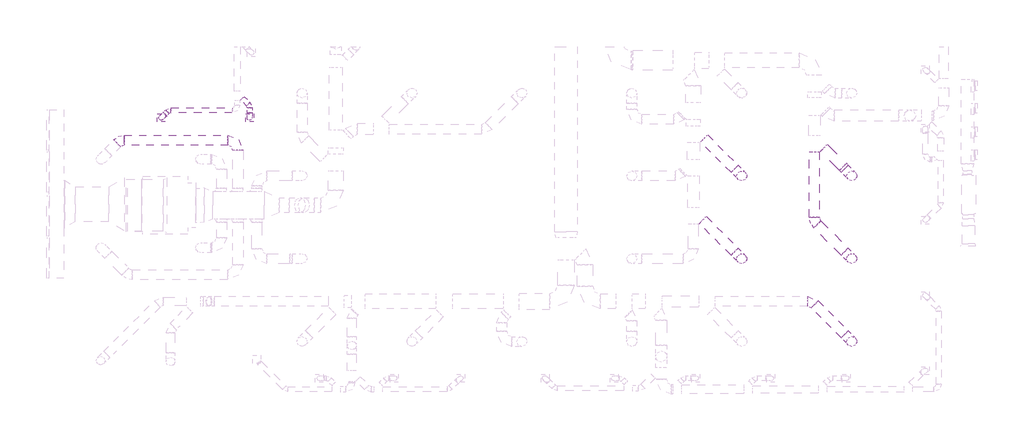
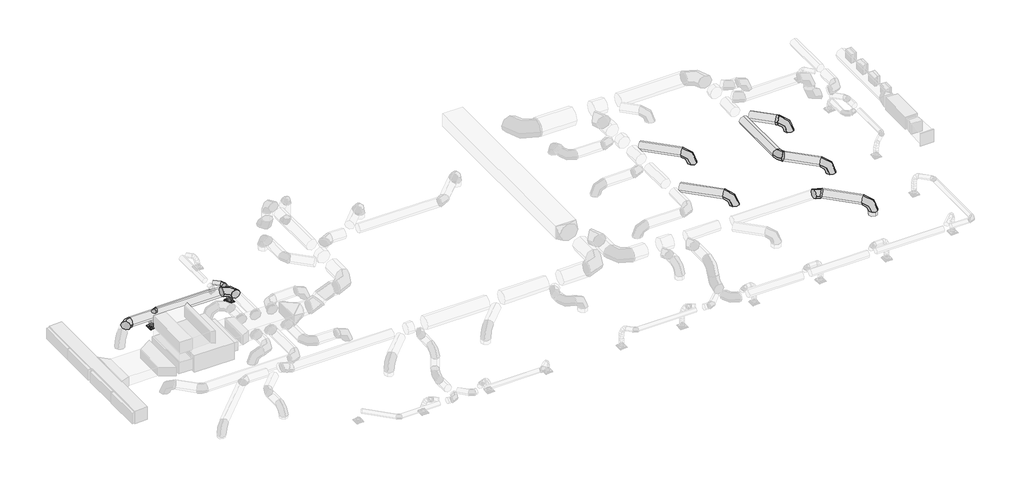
# One storey, part 7 of 33: 18 duct segments, 12 duct fittings, 2 air terminals.
"""IFC4 building model written with IfcOpenShell, lengths in millimetres."""

from ifc_helpers import new_model, si_unit, point, frame, frame_2d, origin, place, context, project, spatial, circle_curve, ellipse_curve, trimmed, segment, composite_curve, outline, extrude, transform, mapped, element, save
from ifc_brep_helpers import plane_surface, cylinder_surface, advanced_brep
from components import air_terminal_0721d01d, round_elbow_1_d_30de4f45, round_elbow_1_d_8aca8b6e, round_elbow_1_d_a6b9d10c, round_elbow_1_d_882dd61f, round_elbow_1_d_ab3aa7ba, round_transition_angle_45_degree_a114afed

model = new_model("IFC4")

# Units and contexts
model_context = context("Model", 3, world=origin())
ifc_project = project(units=[si_unit("LENGTHUNIT", "METRE", prefix="MILLI")], contexts=[model_context])

# Site, building, storey
site = spatial("IfcSite", under=ifc_project)
building = spatial("IfcBuilding", under=site)
storey = spatial("IfcBuildingStorey", under=building, Name="T.O. SLAB - 1ST", Elevation=-25.4)

# Air terminals
placement = place(None, origin())
air_terminal_shape = air_terminal_0721d01d(model_context)
element("IfcAirTerminal", 1, ObjectType="Titus-Round_Neck_Supply_Diffuser-PCS_Surface_Mount : PCS AA-08_12x12", at=placement, inside=storey, context=model_context, shape_type="MappedRepresentation", body=[
    mapped(air_terminal_shape, transform((2023.6862571, 17062.1495055, 3022.6), x_axis=(1.0, 0.0, 0.0), y_axis=(0.0, -1.0, 0.0), z_axis=(0.0, 0.0, -1.0))),
])
element("IfcAirTerminal", 2, ObjectType="Titus-Round_Neck_Supply_Diffuser-PCS_Surface_Mount : PCS AA-08_12x12", at=placement, inside=storey, context=model_context, shape_type="MappedRepresentation", body=[
    mapped(air_terminal_shape, transform((5597.6001852, 17062.1495055, 3022.6), x_axis=(1.0, 0.0, 0.0), y_axis=(0.0, -1.0, 0.0), z_axis=(0.0, 0.0, -1.0))),
])

# Duct fittings
round_elbow_1_d_shape = round_elbow_1_d_30de4f45(model_context)
element("IfcDuctFitting", 3, ObjectType="Round Elbow : 1 D", at=placement, inside=storey, context=model_context, shape_type="MappedRepresentation", body=[
    mapped(round_elbow_1_d_shape, transform((28350.6846644, 9625.3291958, 4826.0), x_axis=(-0.7071067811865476, 0.7071067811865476, 0.0), y_axis=(-0.7071067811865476, -0.7071067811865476, 0.0), z_axis=(0.0, 0.0, 1.0))),
])
round_elbow_1_d_2_shape = round_elbow_1_d_8aca8b6e(model_context)
element("IfcDuctFitting", 4, ObjectType="Round Elbow : 1 D", at=placement, inside=storey, context=model_context, shape_type="MappedRepresentation", body=[
    mapped(round_elbow_1_d_2_shape, transform((29971.9404612, 8004.073399, 4826.0), x_axis=(0.0, 0.0, 1.0), y_axis=(-0.707106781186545, 0.70710678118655, 0.0), z_axis=(-0.70710678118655, -0.707106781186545, 0.0))),
])
element("IfcDuctFitting", 5, ObjectType="Round Elbow : 1 D", at=placement, inside=storey, context=model_context, shape_type="MappedRepresentation", body=[
    mapped(round_elbow_1_d_2_shape, transform((25517.7196878, 11352.7312407, 4635.5), x_axis=(0.0, 0.0, 1.0), y_axis=(-0.7072249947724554, 0.7069885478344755, 0.0), z_axis=(-0.7069885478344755, -0.7072249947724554, 0.0))),
])
element("IfcDuctFitting", 6, ObjectType="Round Elbow : 1 D", at=placement, inside=storey, context=model_context, shape_type="MappedRepresentation", body=[
    mapped(round_elbow_1_d_2_shape, transform((25517.8815931, 14705.9176207, 4635.5), x_axis=(0.0, 0.0, 1.0), y_axis=(-0.7076122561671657, 0.7066009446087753, 0.0), z_axis=(-0.7066009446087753, -0.7076122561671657, 0.0))),
])
element("IfcDuctFitting", 7, ObjectType="Round Elbow : 1 D", at=placement, inside=storey, context=model_context, shape_type="MappedRepresentation", body=[
    mapped(round_elbow_1_d_2_shape, transform((29972.1199089, 11357.053071, 4635.5), x_axis=(0.0, 0.0, 1.0), y_axis=(-0.7075484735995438, 0.7066648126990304, 0.0), z_axis=(-0.7066648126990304, -0.7075484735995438, 0.0))),
])
element("IfcDuctFitting", 8, ObjectType="Round Elbow : 1 D", at=placement, inside=storey, context=model_context, shape_type="MappedRepresentation", body=[
    mapped(round_elbow_1_d_2_shape, transform((29971.9404612, 14709.9021835, 4635.5), x_axis=(0.0, 0.0, 1.0), y_axis=(-0.7071067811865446, 0.7071067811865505, 0.0), z_axis=(-0.7071067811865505, -0.7071067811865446, 0.0))),
])
element("IfcDuctFitting", 9, ObjectType="Round Elbow : 1 D", at=placement, inside=storey, context=model_context, shape_type="MappedRepresentation", body=[
    mapped(round_elbow_1_d_2_shape, transform((5126.1463704, 16149.3422013, 4324.35), x_axis=(0.0, 1.0, 0.0), y_axis=(-1.0, 0.0, 0.0), z_axis=(0.0, 0.0, 1.0))),
])
round_elbow_1_d_3_shape = round_elbow_1_d_a6b9d10c(model_context)
element("IfcDuctFitting", 10, ObjectType="Round Elbow : 1 D", at=placement, inside=storey, context=model_context, shape_type="MappedRepresentation", body=[
    mapped(round_elbow_1_d_3_shape, transform((28460.757068, 12866.5283632, 4635.5), x_axis=(0.0, -1.0, 0.0), y_axis=(1.0, 0.0, 0.0), z_axis=(0.0, 0.0, 1.0))),
])
round_elbow_1_d_4_shape = round_elbow_1_d_882dd61f(model_context)
element("IfcDuctFitting", 11, ObjectType="Round Elbow : 1 D", at=placement, inside=storey, context=model_context, shape_type="MappedRepresentation", body=[
    mapped(round_elbow_1_d_4_shape, transform((353.612894, 16149.3422013, 4324.35), x_axis=(-1.0, 0.0, 0.0), y_axis=(0.0, -1.0, 0.0), z_axis=(0.0, 0.0, 1.0))),
])
round_elbow_1_d_5_shape = round_elbow_1_d_ab3aa7ba(model_context)
element("IfcDuctFitting", 12, ObjectType="Round Elbow : 1 D", at=placement, inside=storey, context=model_context, shape_type="MappedRepresentation", body=[
    mapped(round_elbow_1_d_5_shape, transform((5597.6001852, 17560.7199316, 3530.6), x_axis=(0.0, 1.0, 0.0), y_axis=(-1.0, 0.0, 0.0), z_axis=(0.0, 0.0, 1.0))),
])
element("IfcDuctFitting", 13, ObjectType="Round Elbow : 1 D", at=placement, inside=storey, context=model_context, shape_type="MappedRepresentation", body=[
    mapped(round_elbow_1_d_5_shape, transform((2327.7334151, 17366.1965841, 3530.6), x_axis=(-1.0, 0.0, 0.0), y_axis=(0.0, -1.0, 0.0), z_axis=(0.0, 0.0, 1.0))),
])
round_transition_angle_45_degree_shape = round_transition_angle_45_degree_a114afed(model_context)
element("IfcDuctFitting", 14, ObjectType="Round Transition - Angle : 45 Degree", at=placement, inside=storey, context=model_context, shape_type="MappedRepresentation", body=[
    mapped(round_transition_angle_45_degree_shape, transform((29684.5722653, 14997.2703794, 4635.5), x_axis=(-0.7071067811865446, 0.7071067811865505, 0.0), y_axis=(-0.7071067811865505, -0.7071067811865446, 0.0), z_axis=(0.0, 0.0, 1.0))),
])

# Duct segments
element("IfcDuctSegment", 15, ObjectType="Flex - Round", at=placement, inside=storey, context=model_context, shape_type="AdvancedBrep", body=[
    advanced_brep(
    [(5699.2001852, 17265.3492901, 3530.6), (5597.6001852, 17265.3492901, 3429.0), (5496.0001852, 17265.3492901, 3530.6), (5597.6001852, 17265.3492901, 3632.2), (5699.2001852, 17236.8960293, 3530.6), (5597.6001852, 17260.8822866, 3429.0), (5496.0001852, 17236.8960293, 3530.6), (5597.6001852, 17212.909772, 3632.2), (5699.2001852, 17062.1495055, 3117.85), (5597.6001852, 16960.5495055, 3117.85), (5496.0001852, 17062.1495055, 3117.85), (5597.6001852, 17163.7495055, 3117.85), (5699.2001852, 17197.050082, 3510.6754004), (5597.6001852, 17257.4415955, 3427.279514), (5496.0001852, 17197.050082, 3510.6754004), (5597.6001852, 17136.6585686, 3594.0712867), (5699.2001852, 17144.5112281, 3457.6690589), (5597.6001852, 17227.9989593, 3397.574899), (5496.0001852, 17144.5112281, 3457.6690589), (5597.6001852, 17061.0234969, 3517.7632188), (5699.2001852, 17106.2422359, 3381.7321619), (5597.6001852, 17201.2603026, 3344.5175672), (5496.0001852, 17106.2422359, 3381.7321619), (5597.6001852, 17011.2241691, 3418.9467566), (5699.2001852, 17080.7526129, 3293.0158956), (5597.6001852, 17180.1655808, 3271.0976913), (5496.0001852, 17080.7526129, 3293.0158956), (5597.6001852, 16981.339645, 3314.9340999), (5699.2001852, 17066.5518669, 3201.6714462), (5597.6001852, 17167.7128633, 3190.9972072), (5496.0001852, 17066.5518669, 3201.6714462), (5597.6001852, 16965.3908706, 3212.3456852), (5699.2001852, 17062.1495055, 3123.1787592), (5597.6001852, 17163.7495055, 3120.3318142), (5496.0001852, 17062.1495055, 3123.1787592), (5597.6001852, 16960.5495055, 3126.0257042)],
    [
        (0, 1, circle_curve(frame((5597.6001852, 17265.3492901, 3530.6), z_axis=(0.0, 1.0, 0.0), x_axis=(1.0, 0.0, 0.0)), 101.6)),
        (1, 2, circle_curve(frame((5597.6001852, 17265.3492901, 3530.6), z_axis=(0.0, 1.0, 0.0), x_axis=(1.0, 0.0, 0.0)), 101.6)),
        (2, 3, circle_curve(frame((5597.6001852, 17265.3492901, 3530.6), z_axis=(0.0, 1.0, 0.0), x_axis=(1.0, 0.0, 0.0)), 101.6)),
        (3, 0, circle_curve(frame((5597.6001852, 17265.3492901, 3530.6), z_axis=(0.0, 1.0, 0.0), x_axis=(1.0, 0.0, 0.0)), 101.6)),
        (0, 4),
        (4, 5, ellipse_curve(frame((5597.6001852, 17236.8960293, 3530.6), z_axis=(0.0, 0.9732452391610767, 0.2297688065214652), x_axis=(0.0, 0.22976880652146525, -0.9732452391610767)), 104.39301, 101.6)),
        (5, 1),
        (5, 6, ellipse_curve(frame((5597.6001852, 17236.8960293, 3530.6), z_axis=(0.0, 0.9732452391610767, 0.2297688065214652), x_axis=(0.0, 0.22976880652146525, -0.9732452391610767)), 104.39301, 101.6)),
        (6, 2),
        (6, 7, ellipse_curve(frame((5597.6001852, 17236.8960293, 3530.6), z_axis=(0.0, 0.9732452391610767, 0.2297688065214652), x_axis=(0.0, 0.22976880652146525, -0.9732452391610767)), 104.39301, 101.6)),
        (7, 3),
        (7, 4, ellipse_curve(frame((5597.6001852, 17236.8960293, 3530.6), z_axis=(0.0, 0.9732452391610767, 0.2297688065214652), x_axis=(0.0, 0.22976880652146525, -0.9732452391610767)), 104.39301, 101.6)),
        (8, 9, circle_curve(frame((5597.6001852, 17062.1495055, 3117.85), z_axis=(0.0, 0.0, -1.0), x_axis=(1.0, 0.0, 0.0)), 101.6)),
        (9, 10, circle_curve(frame((5597.6001852, 17062.1495055, 3117.85), z_axis=(0.0, 0.0, -1.0), x_axis=(1.0, 0.0, 0.0)), 101.6)),
        (10, 11, circle_curve(frame((5597.6001852, 17062.1495055, 3117.85), z_axis=(0.0, 0.0, -1.0), x_axis=(1.0, 0.0, 0.0)), 101.6)),
        (11, 8, circle_curve(frame((5597.6001852, 17062.1495055, 3117.85), z_axis=(0.0, 0.0, -1.0), x_axis=(1.0, 0.0, 0.0)), 101.6)),
        (4, 12),
        (12, 13, ellipse_curve(frame((5597.6001852, 17197.050082, 3510.6754004), z_axis=(0.0, 0.8099357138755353, 0.5865186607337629), x_axis=(0.0, 0.5865186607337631, -0.8099357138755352)), 102.9660563, 101.6)),
        (13, 5),
        (13, 14, ellipse_curve(frame((5597.6001852, 17197.050082, 3510.6754004), z_axis=(0.0, 0.8099357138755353, 0.5865186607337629), x_axis=(0.0, 0.5865186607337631, -0.8099357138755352)), 102.9660563, 101.6)),
        (14, 6),
        (14, 15, ellipse_curve(frame((5597.6001852, 17197.050082, 3510.6754004), z_axis=(0.0, 0.8099357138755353, 0.5865186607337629), x_axis=(0.0, 0.5865186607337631, -0.8099357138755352)), 102.9660563, 101.6)),
        (15, 7),
        (15, 12, ellipse_curve(frame((5597.6001852, 17197.050082, 3510.6754004), z_axis=(0.0, 0.8099357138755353, 0.5865186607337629), x_axis=(0.0, 0.5865186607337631, -0.8099357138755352)), 102.9660563, 101.6)),
        (12, 16),
        (16, 17, ellipse_curve(frame((5597.6001852, 17144.5112281, 3457.6690589), z_axis=(0.0, 0.5841958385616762, 0.8116127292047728), x_axis=(0.0, 0.811612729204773, -0.5841958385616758)), 102.8664635, 101.6)),
        (17, 13),
        (17, 18, ellipse_curve(frame((5597.6001852, 17144.5112281, 3457.6690589), z_axis=(0.0, 0.5841958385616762, 0.8116127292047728), x_axis=(0.0, 0.811612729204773, -0.5841958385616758)), 102.8664635, 101.6)),
        (18, 14),
        (18, 19, ellipse_curve(frame((5597.6001852, 17144.5112281, 3457.6690589), z_axis=(0.0, 0.5841958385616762, 0.8116127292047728), x_axis=(0.0, 0.811612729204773, -0.5841958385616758)), 102.8664635, 101.6)),
        (19, 15),
        (19, 16, ellipse_curve(frame((5597.6001852, 17144.5112281, 3457.6690589), z_axis=(0.0, 0.5841958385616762, 0.8116127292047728), x_axis=(0.0, 0.811612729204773, -0.5841958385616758)), 102.8664635, 101.6)),
        (16, 20),
        (20, 21, ellipse_curve(frame((5597.6001852, 17106.2422359, 3381.7321619), z_axis=(0.0, 0.3646849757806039, 0.9311309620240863), x_axis=(0.0, 0.9311309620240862, -0.36468497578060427)), 102.0458674, 101.6)),
        (21, 17),
        (21, 22, ellipse_curve(frame((5597.6001852, 17106.2422359, 3381.7321619), z_axis=(0.0, 0.3646849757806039, 0.9311309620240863), x_axis=(0.0, 0.9311309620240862, -0.36468497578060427)), 102.0458674, 101.6)),
        (22, 18),
        (22, 23, ellipse_curve(frame((5597.6001852, 17106.2422359, 3381.7321619), z_axis=(0.0, 0.3646849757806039, 0.9311309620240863), x_axis=(0.0, 0.9311309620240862, -0.36468497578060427)), 102.0458674, 101.6)),
        (23, 19),
        (23, 20, ellipse_curve(frame((5597.6001852, 17106.2422359, 3381.7321619), z_axis=(0.0, 0.3646849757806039, 0.9311309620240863), x_axis=(0.0, 0.9311309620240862, -0.36468497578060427)), 102.0458674, 101.6)),
        (20, 24),
        (24, 25, ellipse_curve(frame((5597.6001852, 17080.7526129, 3293.0158956), z_axis=(0.0, 0.21530542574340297, 0.976546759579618), x_axis=(0.0, 0.9765467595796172, -0.21530542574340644)), 101.80052, 101.6)),
        (25, 21),
        (25, 26, ellipse_curve(frame((5597.6001852, 17080.7526129, 3293.0158956), z_axis=(0.0, 0.21530542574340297, 0.976546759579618), x_axis=(0.0, 0.9765467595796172, -0.21530542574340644)), 101.80052, 101.6)),
        (26, 22),
        (26, 27, ellipse_curve(frame((5597.6001852, 17080.7526129, 3293.0158956), z_axis=(0.0, 0.21530542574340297, 0.976546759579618), x_axis=(0.0, 0.9765467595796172, -0.21530542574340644)), 101.80052, 101.6)),
        (27, 23),
        (27, 24, ellipse_curve(frame((5597.6001852, 17080.7526129, 3293.0158956), z_axis=(0.0, 0.21530542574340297, 0.976546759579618), x_axis=(0.0, 0.9765467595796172, -0.21530542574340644)), 101.80052, 101.6)),
        (24, 28),
        (28, 29, ellipse_curve(frame((5597.6001852, 17066.5518669, 3201.6714462), z_axis=(0.0, 0.10493478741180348, 0.9944791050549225), x_axis=(0.0, 0.9944791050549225, -0.10493478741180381)), 101.7225961, 101.6)),
        (29, 25),
        (29, 30, ellipse_curve(frame((5597.6001852, 17066.5518669, 3201.6714462), z_axis=(0.0, 0.10493478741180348, 0.9944791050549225), x_axis=(0.0, 0.9944791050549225, -0.10493478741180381)), 101.7225961, 101.6)),
        (30, 26),
        (30, 31, ellipse_curve(frame((5597.6001852, 17066.5518669, 3201.6714462), z_axis=(0.0, 0.10493478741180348, 0.9944791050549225), x_axis=(0.0, 0.9944791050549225, -0.10493478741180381)), 101.7225961, 101.6)),
        (31, 27),
        (31, 28, ellipse_curve(frame((5597.6001852, 17066.5518669, 3201.6714462), z_axis=(0.0, 0.10493478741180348, 0.9944791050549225), x_axis=(0.0, 0.9944791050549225, -0.10493478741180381)), 101.7225961, 101.6)),
        (28, 32),
        (32, 33, ellipse_curve(frame((5597.6001852, 17062.1495055, 3123.1787592), z_axis=(0.0, 0.028010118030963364, 0.9996076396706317), x_axis=(0.0, 0.9996076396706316, -0.028010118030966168)), 101.6398795, 101.6)),
        (33, 29),
        (33, 34, ellipse_curve(frame((5597.6001852, 17062.1495055, 3123.1787592), z_axis=(0.0, 0.028010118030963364, 0.9996076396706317), x_axis=(0.0, 0.9996076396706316, -0.028010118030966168)), 101.6398795, 101.6)),
        (34, 30),
        (34, 35, ellipse_curve(frame((5597.6001852, 17062.1495055, 3123.1787592), z_axis=(0.0, 0.028010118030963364, 0.9996076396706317), x_axis=(0.0, 0.9996076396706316, -0.028010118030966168)), 101.6398795, 101.6)),
        (35, 31),
        (35, 32, ellipse_curve(frame((5597.6001852, 17062.1495055, 3123.1787592), z_axis=(0.0, 0.028010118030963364, 0.9996076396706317), x_axis=(0.0, 0.9996076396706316, -0.028010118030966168)), 101.6398795, 101.6)),
        (32, 8),
        (11, 33),
        (10, 34),
        (9, 35),
    ],
    [
        plane_surface(frame((5496.0001852, 17265.3492901, 3530.6), z_axis=(0.0, 1.0, 0.0), x_axis=(0.0, 0.0, -1.0))),
        cylinder_surface(frame((5597.6001852, 17265.3492901, 3530.6), z_axis=(0.0, 1.0, 0.0), x_axis=(1.0, 0.0, 0.0)), 101.6),
        plane_surface(frame((5597.6001852, 16960.5495055, 3117.85), z_axis=(0.0, 0.0, -1.0), x_axis=(-1.0, 0.0, 0.0))),
        cylinder_surface(frame((5597.6001852, 17236.8960293, 3530.6), z_axis=(0.0, 0.894412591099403, 0.44724279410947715), x_axis=(1.0, 0.0, 0.0)), 101.6),
        cylinder_surface(frame((5597.6001852, 17197.050082, 3510.6754004), z_axis=(0.0, 0.7039679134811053, 0.7102317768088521), x_axis=(1.0, 0.0, 0.0)), 101.6),
        cylinder_surface(frame((5597.6001852, 17144.5112281, 3457.6690589), z_axis=(0.0, 0.450038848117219, 0.8930089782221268), x_axis=(1.0, 0.0, 0.0)), 101.6),
        cylinder_surface(frame((5597.6001852, 17106.2422359, 3381.7321619), z_axis=(0.0, 0.2761442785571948, 0.9611161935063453), x_axis=(1.0, 0.0, 0.0)), 101.6),
        cylinder_surface(frame((5597.6001852, 17080.7526129, 3293.0158956), z_axis=(0.0, 0.1536183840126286, 0.9881302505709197), x_axis=(1.0, 0.0, 0.0)), 101.6),
        cylinder_surface(frame((5597.6001852, 17066.5518669, 3201.6714462), z_axis=(0.0, 0.05599825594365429, 0.998430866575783), x_axis=(1.0, 0.0, 0.0)), 101.6),
        cylinder_surface(frame((5597.6001852, 17062.1495055, 3123.1787592), z_axis=(0.0, 0.0, 1.0), x_axis=(1.0, 0.0, 0.0)), 101.6),
    ],
    [
        (0, [[1, 2, 3, 4]]),
        (1, [[-1, 5, 6, 7]]),
        (1, [[-2, -7, 8, 9]]),
        (1, [[-3, -9, 10, 11]]),
        (1, [[-4, -11, 12, -5]]),
        (2, [[13, 14, 15, 16]]),
        (3, [[-6, 17, 18, 19]]),
        (3, [[-8, -19, 20, 21]]),
        (3, [[-10, -21, 22, 23]]),
        (3, [[-12, -23, 24, -17]]),
        (4, [[-18, 25, 26, 27]]),
        (4, [[-20, -27, 28, 29]]),
        (4, [[-22, -29, 30, 31]]),
        (4, [[-24, -31, 32, -25]]),
        (5, [[-26, 33, 34, 35]]),
        (5, [[-28, -35, 36, 37]]),
        (5, [[-30, -37, 38, 39]]),
        (5, [[-32, -39, 40, -33]]),
        (6, [[-34, 41, 42, 43]]),
        (6, [[-36, -43, 44, 45]]),
        (6, [[-38, -45, 46, 47]]),
        (6, [[-40, -47, 48, -41]]),
        (7, [[-42, 49, 50, 51]]),
        (7, [[-44, -51, 52, 53]]),
        (7, [[-46, -53, 54, 55]]),
        (7, [[-48, -55, 56, -49]]),
        (8, [[-50, 57, 58, 59]]),
        (8, [[-52, -59, 60, 61]]),
        (8, [[-54, -61, 62, 63]]),
        (8, [[-56, -63, 64, -57]]),
        (9, [[-58, 65, -16, 66]]),
        (9, [[-60, -66, -15, 67]]),
        (9, [[-62, -67, -14, 68]]),
        (9, [[-64, -68, -13, -65]]),
    ],
),
])
element("IfcDuctSegment", 16, ObjectType="Flex - Round", at=placement, inside=storey, context=model_context, shape_type="AdvancedBrep", body=[
    advanced_brep(
    [(2239.2122914, 17133.9913624, 3530.6), (2167.3702424, 17205.8334114, 3429.0), (2095.5281935, 17277.6754604, 3530.6), (2167.3702424, 17205.8334114, 3632.2), (2219.0927942, 17113.8718653, 3530.6), (2164.211594, 17202.674763, 3429.0), (2075.4087034, 17257.5559703, 3530.6), (2130.2899036, 17168.7530726, 3632.2), (2095.5282944, 16990.3074449, 3117.85), (1951.8441965, 16990.3074681, 3117.85), (1951.8442198, 17133.9915661, 3117.85), (2095.5283177, 17133.9915428, 3117.85), (2190.9174467, 17085.6965236, 3510.6753968), (2161.7786577, 17200.2418272, 3427.279514), (2047.233366, 17229.3806388, 3510.6754039), (2076.372155, 17114.8353352, 3594.0712867), (2153.7668568, 17048.5459484, 3457.6690515), (2140.9595659, 17179.4227436, 3397.574899), (2010.0827814, 17192.2300689, 3457.6690663), (2022.8900723, 17061.3532737, 3517.7632188), (2126.7065824, 17021.4856931, 3381.7321519), (2122.0524737, 17160.5156648, 3344.5175672), (1983.0225089, 17165.1698155, 3381.7321719), (1987.6766175, 17026.1398438, 3418.9467566), (2108.6826877, 17003.4618175, 3293.0158859), (2107.136245, 17145.5994519, 3271.0976913), (1964.998614, 17147.1459397, 3293.0159053), (1966.5450567, 17005.0083053, 3314.9340999), (2098.6412368, 16993.4203814, 3201.6714395), (2098.3308376, 17136.7940573, 3190.9972072), (1954.9571626, 17137.104503, 3201.6714529), (1955.2675619, 16993.730827, 3212.3456852), (2095.5282944, 16990.3074449, 3123.178757), (2095.5283177, 17133.9915428, 3120.3318142), (1951.8442198, 17133.9915661, 3123.1787615), (1951.8441965, 16990.3074681, 3126.0257042)],
    [
        (0, 1, circle_curve(frame((2167.3702424, 17205.8334114, 3530.6), z_axis=(0.7071067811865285, 0.7071067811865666, 0.0), x_axis=(0.7071067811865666, -0.7071067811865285, 0.0)), 101.6)),
        (1, 2, circle_curve(frame((2167.3702424, 17205.8334114, 3530.6), z_axis=(0.7071067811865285, 0.7071067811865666, 0.0), x_axis=(0.7071067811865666, -0.7071067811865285, 0.0)), 101.6)),
        (2, 3, circle_curve(frame((2167.3702424, 17205.8334114, 3530.6), z_axis=(0.7071067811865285, 0.7071067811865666, 0.0), x_axis=(0.7071067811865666, -0.7071067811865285, 0.0)), 101.6)),
        (3, 0, circle_curve(frame((2167.3702424, 17205.8334114, 3530.6), z_axis=(0.7071067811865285, 0.7071067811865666, 0.0), x_axis=(0.7071067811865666, -0.7071067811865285, 0.0)), 101.6)),
        (0, 4),
        (4, 5, ellipse_curve(frame((2147.2507488, 17185.7139178, 3530.6), z_axis=(0.6881883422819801, 0.688188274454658, 0.2297688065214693), x_axis=(0.16247093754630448, 0.16247122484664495, -0.9732452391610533)), 104.39301, 101.6)),
        (5, 1),
        (5, 6, ellipse_curve(frame((2147.2507488, 17185.7139178, 3530.6), z_axis=(0.6881883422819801, 0.688188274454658, 0.2297688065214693), x_axis=(0.16247093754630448, 0.16247122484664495, -0.9732452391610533)), 104.39301, 101.6)),
        (6, 2),
        (6, 7, ellipse_curve(frame((2147.2507488, 17185.7139178, 3530.6), z_axis=(0.6881883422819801, 0.688188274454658, 0.2297688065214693), x_axis=(0.16247093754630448, 0.16247122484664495, -0.9732452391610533)), 104.39301, 101.6)),
        (7, 3),
        (7, 4, ellipse_curve(frame((2147.2507488, 17185.7139178, 3530.6), z_axis=(0.6881883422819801, 0.688188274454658, 0.2297688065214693), x_axis=(0.16247093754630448, 0.16247122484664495, -0.9732452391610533)), 104.39301, 101.6)),
        (8, 9, circle_curve(frame((2023.6862571, 17062.1495055, 3117.85), z_axis=(0.0, 0.0, -1.0), x_axis=(0.7071066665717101, -0.7071068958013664, 0.0)), 101.6)),
        (9, 10, circle_curve(frame((2023.6862571, 17062.1495055, 3117.85), z_axis=(0.0, 0.0, -1.0), x_axis=(0.7071066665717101, -0.7071068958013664, 0.0)), 101.6)),
        (10, 11, circle_curve(frame((2023.6862571, 17062.1495055, 3117.85), z_axis=(0.0, 0.0, -1.0), x_axis=(0.7071066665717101, -0.7071068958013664, 0.0)), 101.6)),
        (11, 8, circle_curve(frame((2023.6862571, 17062.1495055, 3117.85), z_axis=(0.0, 0.0, -1.0), x_axis=(0.7071066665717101, -0.7071068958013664, 0.0)), 101.6)),
        (4, 12),
        (12, 13, ellipse_curve(frame((2119.0754064, 17157.5385812, 3510.6754004), z_axis=(0.5727111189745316, 0.5727109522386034, 0.586518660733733), x_axis=(0.41473122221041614, 0.41473142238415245, -0.8099357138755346)), 102.9660563, 101.6)),
        (13, 5),
        (13, 14, ellipse_curve(frame((2119.0754064, 17157.5385812, 3510.6754004), z_axis=(0.5727111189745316, 0.5727109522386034, 0.586518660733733), x_axis=(0.41473122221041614, 0.41473142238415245, -0.8099357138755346)), 102.9660563, 101.6)),
        (14, 6),
        (14, 15, ellipse_curve(frame((2119.0754064, 17157.5385812, 3510.6754004), z_axis=(0.5727111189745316, 0.5727109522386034, 0.586518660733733), x_axis=(0.41473122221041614, 0.41473142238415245, -0.8099357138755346)), 102.9660563, 101.6)),
        (15, 7),
        (15, 12, ellipse_curve(frame((2119.0754064, 17157.5385812, 3510.6754004), z_axis=(0.5727111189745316, 0.5727109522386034, 0.586518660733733), x_axis=(0.41473122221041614, 0.41473142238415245, -0.8099357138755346)), 102.9660563, 101.6)),
        (12, 16),
        (16, 17, ellipse_curve(frame((2081.9248191, 17120.3880086, 3457.6690589), z_axis=(0.41308894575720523, 0.4130887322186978, 0.8116127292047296), x_axis=(0.5738968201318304, 0.5738969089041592, -0.5841958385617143)), 102.8664635, 101.6)),
        (17, 13),
        (17, 18, ellipse_curve(frame((2081.9248191, 17120.3880086, 3457.6690589), z_axis=(0.41308894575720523, 0.4130887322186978, 0.8116127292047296), x_axis=(0.5738968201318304, 0.5738969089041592, -0.5841958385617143)), 102.8664635, 101.6)),
        (18, 14),
        (18, 19, ellipse_curve(frame((2081.9248191, 17120.3880086, 3457.6690589), z_axis=(0.41308894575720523, 0.4130887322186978, 0.8116127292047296), x_axis=(0.5738968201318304, 0.5738969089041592, -0.5841958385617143)), 102.8664635, 101.6)),
        (19, 15),
        (19, 16, ellipse_curve(frame((2081.9248191, 17120.3880086, 3457.6690589), z_axis=(0.41308894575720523, 0.4130887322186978, 0.8116127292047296), x_axis=(0.5738968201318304, 0.5738969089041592, -0.5841958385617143)), 102.8664635, 101.6)),
        (16, 20),
        (20, 21, ellipse_curve(frame((2054.8645456, 17093.3277543, 3381.7321619), z_axis=(0.2578713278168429, 0.2578711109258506, 0.9311309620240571), x_axis=(0.6584090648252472, 0.6584089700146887, -0.36468497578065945)), 102.0458674, 101.6)),
        (21, 17),
        (21, 22, ellipse_curve(frame((2054.8645456, 17093.3277543, 3381.7321619), z_axis=(0.2578713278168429, 0.2578711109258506, 0.9311309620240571), x_axis=(0.6584090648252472, 0.6584089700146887, -0.36468497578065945)), 102.0458674, 101.6)),
        (22, 18),
        (22, 23, ellipse_curve(frame((2054.8645456, 17093.3277543, 3381.7321619), z_axis=(0.2578713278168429, 0.2578711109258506, 0.9311309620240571), x_axis=(0.6584090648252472, 0.6584089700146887, -0.36468497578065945)), 102.0458674, 101.6)),
        (23, 19),
        (23, 20, ellipse_curve(frame((2054.8645456, 17093.3277543, 3381.7321619), z_axis=(0.2578713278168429, 0.2578711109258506, 0.9311309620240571), x_axis=(0.6584090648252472, 0.6584089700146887, -0.36468497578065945)), 102.0458674, 101.6)),
        (20, 24),
        (24, 25, ellipse_curve(frame((2036.8406508, 17075.3038786, 3293.0158956), z_axis=(0.15224401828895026, 0.15224383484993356, 0.9765467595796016), x_axis=(0.6905230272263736, 0.6905226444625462, -0.2153054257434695)), 101.80052, 101.6)),
        (25, 21),
        (25, 26, ellipse_curve(frame((2036.8406508, 17075.3038786, 3293.0158956), z_axis=(0.15224401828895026, 0.15224383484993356, 0.9765467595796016), x_axis=(0.6905230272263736, 0.6905226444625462, -0.2153054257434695)), 101.80052, 101.6)),
        (26, 22),
        (26, 27, ellipse_curve(frame((2036.8406508, 17075.3038786, 3293.0158956), z_axis=(0.15224401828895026, 0.15224383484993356, 0.9765467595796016), x_axis=(0.6905230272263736, 0.6905226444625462, -0.2153054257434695)), 101.80052, 101.6)),
        (27, 23),
        (27, 24, ellipse_curve(frame((2036.8406508, 17075.3038786, 3293.0158956), z_axis=(0.15224401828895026, 0.15224383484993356, 0.9765467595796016), x_axis=(0.6905230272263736, 0.6905226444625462, -0.2153054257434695)), 101.80052, 101.6)),
        (24, 28),
        (28, 29, ellipse_curve(frame((2026.7991997, 17065.2624422, 3201.6714462), z_axis=(0.07420015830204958, 0.07420004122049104, 0.9944791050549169), x_axis=(0.7032033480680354, 0.7032024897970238, -0.10493478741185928)), 101.7225961, 101.6)),
        (29, 25),
        (29, 30, ellipse_curve(frame((2026.7991997, 17065.2624422, 3201.6714462), z_axis=(0.07420015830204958, 0.07420004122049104, 0.9944791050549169), x_axis=(0.7032033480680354, 0.7032024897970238, -0.10493478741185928)), 101.7225961, 101.6)),
        (30, 26),
        (30, 31, ellipse_curve(frame((2026.7991997, 17065.2624422, 3201.6714462), z_axis=(0.07420015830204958, 0.07420004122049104, 0.9944791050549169), x_axis=(0.7032033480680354, 0.7032024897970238, -0.10493478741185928)), 101.7225961, 101.6)),
        (31, 27),
        (31, 28, ellipse_curve(frame((2026.7991997, 17065.2624422, 3201.6714462), z_axis=(0.07420015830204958, 0.07420004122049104, 0.9944791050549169), x_axis=(0.7032033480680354, 0.7032024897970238, -0.10493478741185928)), 101.7225961, 101.6)),
        (28, 32),
        (32, 33, ellipse_curve(frame((2023.6862571, 17062.1495055, 3123.1787592), z_axis=(0.01980616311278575, 0.0198061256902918, 0.9996076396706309), x_axis=(0.7068300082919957, 0.706828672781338, -0.028010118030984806)), 101.6398795, 101.6)),
        (33, 29),
        (33, 34, ellipse_curve(frame((2023.6862571, 17062.1495055, 3123.1787592), z_axis=(0.01980616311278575, 0.0198061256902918, 0.9996076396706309), x_axis=(0.7068300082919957, 0.706828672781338, -0.028010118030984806)), 101.6398795, 101.6)),
        (34, 30),
        (34, 35, ellipse_curve(frame((2023.6862571, 17062.1495055, 3123.1787592), z_axis=(0.01980616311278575, 0.0198061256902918, 0.9996076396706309), x_axis=(0.7068300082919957, 0.706828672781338, -0.028010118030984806)), 101.6398795, 101.6)),
        (35, 31),
        (35, 32, ellipse_curve(frame((2023.6862571, 17062.1495055, 3123.1787592), z_axis=(0.01980616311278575, 0.0198061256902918, 0.9996076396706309), x_axis=(0.7068300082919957, 0.706828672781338, -0.028010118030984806)), 101.6398795, 101.6)),
        (32, 8),
        (11, 33),
        (10, 34),
        (9, 35),
    ],
    [
        plane_surface(frame((2167.3702424, 17205.8334114, 3429.0), z_axis=(0.7071067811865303, 0.7071067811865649, 0.0), x_axis=(0.7071067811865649, -0.7071067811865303, 0.0))),
        cylinder_surface(frame((2167.3702424, 17205.8334114, 3530.6), z_axis=(0.7071067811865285, 0.7071067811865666, 0.0), x_axis=(0.7071067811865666, -0.7071067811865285, 0.0)), 101.6),
        plane_surface(frame((2023.6862571, 16960.5495055, 3117.85), z_axis=(0.0, 0.0, -1.0), x_axis=(-1.0, 0.0, 0.0))),
        cylinder_surface(frame((2147.2507488, 17185.7139178, 3530.6), z_axis=(0.6324452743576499, 0.6324451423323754, 0.4472427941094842), x_axis=(0.7071067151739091, -0.7071068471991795, -2.2039968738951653e-08)), 101.6),
        cylinder_surface(frame((2119.0754064, 17157.5385812, 3510.6754004), z_axis=(0.4977805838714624, 0.4977803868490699, 0.7102317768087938), x_axis=(0.7071066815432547, -0.707106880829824, -5.6481427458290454e-08)), 101.6),
        cylinder_surface(frame((2081.9248191, 17120.3880086, 3457.6690589), z_axis=(0.3182256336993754, 0.31822540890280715, 0.893008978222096), x_axis=(0.7071066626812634, -0.7071068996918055, -9.354035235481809e-08)), 101.6),
        cylinder_surface(frame((2054.8645456, 17093.3277543, 3381.7321619), z_axis=(0.19526359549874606, 0.1952633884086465, 0.9611161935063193), x_axis=(0.7071066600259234, -0.7071069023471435, -1.0312834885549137e-07)), 101.6),
        cylinder_surface(frame((2036.8406508, 17075.3038786, 3293.0158956), z_axis=(0.10862468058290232, 0.10862452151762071, 0.9881302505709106), x_axis=(0.7071066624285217, -0.7071068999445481, -8.771723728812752e-08)), 101.6),
        cylinder_surface(frame((2026.7991997, 17065.2624422, 3201.6714462), z_axis=(0.03959678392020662, 0.03959670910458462, 0.9984308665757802), x_axis=(0.7071066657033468, -0.707106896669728, -4.38258850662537e-08)), 101.6),
        cylinder_surface(frame((2023.6862571, 17062.1495055, 3123.1787592), z_axis=(0.0, 0.0, 1.0), x_axis=(0.7071066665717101, -0.7071068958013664, 0.0)), 101.6),
    ],
    [
        (0, [[1, 2, 3, 4]]),
        (1, [[-1, 5, 6, 7]]),
        (1, [[-2, -7, 8, 9]]),
        (1, [[-3, -9, 10, 11]]),
        (1, [[-4, -11, 12, -5]]),
        (2, [[13, 14, 15, 16]]),
        (3, [[-6, 17, 18, 19]]),
        (3, [[-8, -19, 20, 21]]),
        (3, [[-10, -21, 22, 23]]),
        (3, [[-12, -23, 24, -17]]),
        (4, [[-18, 25, 26, 27]]),
        (4, [[-20, -27, 28, 29]]),
        (4, [[-22, -29, 30, 31]]),
        (4, [[-24, -31, 32, -25]]),
        (5, [[-26, 33, 34, 35]]),
        (5, [[-28, -35, 36, 37]]),
        (5, [[-30, -37, 38, 39]]),
        (5, [[-32, -39, 40, -33]]),
        (6, [[-34, 41, 42, 43]]),
        (6, [[-36, -43, 44, 45]]),
        (6, [[-38, -45, 46, 47]]),
        (6, [[-40, -47, 48, -41]]),
        (7, [[-42, 49, 50, 51]]),
        (7, [[-44, -51, 52, 53]]),
        (7, [[-46, -53, 54, 55]]),
        (7, [[-48, -55, 56, -49]]),
        (8, [[-50, 57, 58, 59]]),
        (8, [[-52, -59, 60, 61]]),
        (8, [[-54, -61, 62, 63]]),
        (8, [[-56, -63, 64, -57]]),
        (9, [[-58, 65, -16, 66]]),
        (9, [[-60, -66, -15, 67]]),
        (9, [[-62, -67, -14, 68]]),
        (9, [[-64, -68, -13, -65]]),
    ],
),
])
element("IfcDuctSegment", 17, ObjectType="Taps", at=placement, inside=storey, context=model_context, shape_type="SweptSolid", body=[
    extrude(outline(composite_curve([segment(trimmed(circle_curve(frame_2d((0.0, -203.2)), 203.2), [point((-203.1999999, -203.2))], [point((0.0, 0.0))], False, "CARTESIAN"), True, "CONTINUOUS"), segment(trimmed(circle_curve(frame_2d((0.0, -203.2)), 203.2), [point((0.0, 0.0))], [point((203.2000001, -203.2))], False, "CARTESIAN"), True, "CONTINUOUS"), segment(trimmed(circle_curve(frame_2d((0.0, -203.2)), 203.2), [point((203.2000001, -203.2))], [point((0.0, -406.4))], False, "CARTESIAN"), True, "CONTINUOUS"), segment(trimmed(circle_curve(frame_2d((0.0, -203.2)), 203.2), [point((0.0, -406.4))], [point((-203.1999999, -203.2))], False, "CARTESIAN"), True, "CONTINUOUS")], self_intersect=False)), frame((29684.5722653, 8291.4415948, 4622.8), z_axis=(-0.707106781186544, 0.7071067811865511, 0.0), x_axis=(0.7071067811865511, 0.707106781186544, 0.0)), (0.0, 0.0, 1.0), 1718.0655442),
])
element("IfcDuctSegment", 18, ObjectType="Taps", at=placement, inside=storey, context=model_context, shape_type="SweptSolid", body=[
    extrude(outline(composite_curve([segment(trimmed(circle_curve(frame_2d((29971.9404612, 8004.073399)), 203.2), [point((30175.1404612, 8004.073399))], [point((29971.9404612, 7800.873399))], False, "CARTESIAN"), True, "CONTINUOUS"), segment(trimmed(circle_curve(frame_2d((29971.9404612, 8004.073399)), 203.2), [point((29971.9404612, 7800.873399))], [point((29768.7404612, 8004.073399))], False, "CARTESIAN"), True, "CONTINUOUS"), segment(trimmed(circle_curve(frame_2d((29971.9404612, 8004.073399)), 203.2), [point((29768.7404612, 8004.073399))], [point((29971.9404612, 8207.273399))], False, "CARTESIAN"), True, "CONTINUOUS"), segment(trimmed(circle_curve(frame_2d((29971.9404612, 8004.073399)), 203.2), [point((29971.9404612, 8207.273399))], [point((30175.1404612, 8004.073399))], False, "CARTESIAN"), True, "CONTINUOUS")], self_intersect=False)), frame((0.0, 0.0, 4216.4), z_axis=(0.0, 0.0, 1.0), x_axis=(1.0, 0.0, 0.0)), (0.0, 0.0, 1.0), 203.2),
])
element("IfcDuctSegment", 19, ObjectType="Taps", at=placement, inside=storey, context=model_context, shape_type="SweptSolid", body=[
    extrude(outline(composite_curve([segment(trimmed(circle_curve(frame_2d((0.0, -203.2)), 203.2), [point((-203.2, -203.2))], [point((0.0, 0.0))], False, "CARTESIAN"), True, "CONTINUOUS"), segment(trimmed(circle_curve(frame_2d((0.0, -203.2)), 203.2), [point((0.0, 0.0))], [point((203.2, -203.2))], False, "CARTESIAN"), True, "CONTINUOUS"), segment(trimmed(circle_curve(frame_2d((0.0, -203.2)), 203.2), [point((203.2, -203.2))], [point((0.0, -406.4))], False, "CARTESIAN"), True, "CONTINUOUS"), segment(trimmed(circle_curve(frame_2d((0.0, -203.2)), 203.2), [point((0.0, -406.4))], [point((-203.2, -203.2))], False, "CARTESIAN"), True, "CONTINUOUS")], self_intersect=False)), frame((25230.3034499, 11640.0513866, 4432.3), z_axis=(-0.7072249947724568, 0.7069885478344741, 0.0), x_axis=(0.7069885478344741, 0.7072249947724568, 0.0)), (0.0, 0.0, 1.0), 1816.2674411),
])
element("IfcDuctSegment", 20, ObjectType="Taps", at=placement, inside=storey, context=model_context, shape_type="SweptSolid", body=[
    extrude(outline(composite_curve([segment(trimmed(circle_curve(frame_2d((25517.7196878, 11352.7312407)), 203.2), [point((25661.3797607, 11496.4393596))], [point((25661.4278067, 11209.0711678))], False, "CARTESIAN"), True, "CONTINUOUS"), segment(trimmed(circle_curve(frame_2d((25517.7196878, 11352.7312407)), 203.2), [point((25661.4278067, 11209.0711678))], [point((25374.0596149, 11209.0231218))], False, "CARTESIAN"), True, "CONTINUOUS"), segment(trimmed(circle_curve(frame_2d((25517.7196878, 11352.7312407)), 203.2), [point((25374.0596149, 11209.0231218))], [point((25374.0115689, 11496.3913136))], False, "CARTESIAN"), True, "CONTINUOUS"), segment(trimmed(circle_curve(frame_2d((25517.7196878, 11352.7312407)), 203.2), [point((25374.0115689, 11496.3913136))], [point((25661.3797607, 11496.4393596))], False, "CARTESIAN"), True, "CONTINUOUS")], self_intersect=False)), frame((0.0, 0.0, 4216.4), z_axis=(0.0, 0.0, 1.0), x_axis=(1.0, 0.0, 0.0)), (0.0, 0.0, 1.0), 12.7),
])
element("IfcDuctSegment", 21, ObjectType="Taps", at=placement, inside=storey, context=model_context, shape_type="SweptSolid", body=[
    extrude(outline(composite_curve([segment(trimmed(circle_curve(frame_2d((0.0, -203.2)), 203.2), [point((-203.2000001, -203.2))], [point((0.0, 0.0))], False, "CARTESIAN"), True, "CONTINUOUS"), segment(trimmed(circle_curve(frame_2d((0.0, -203.2)), 203.2), [point((0.0, 0.0))], [point((203.1999999, -203.2))], False, "CARTESIAN"), True, "CONTINUOUS"), segment(trimmed(circle_curve(frame_2d((0.0, -203.2)), 203.2), [point((203.1999999, -203.2))], [point((0.0, -406.4))], False, "CARTESIAN"), True, "CONTINUOUS"), segment(trimmed(circle_curve(frame_2d((0.0, -203.2)), 203.2), [point((0.0, -406.4))], [point((-203.2000001, -203.2))], False, "CARTESIAN"), True, "CONTINUOUS")], self_intersect=False)), frame((25230.3079722, 14993.0802446, 4432.3), z_axis=(-0.7076122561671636, 0.7066009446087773, 0.0), x_axis=(0.7066009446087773, 0.7076122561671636, 0.0)), (0.0, 0.0, 1.0), 1743.4890973),
])
element("IfcDuctSegment", 22, ObjectType="Taps", at=placement, inside=storey, context=model_context, shape_type="SweptSolid", body=[
    extrude(outline(composite_curve([segment(trimmed(circle_curve(frame_2d((25517.8815931, 14705.9176207)), 203.2), [point((25661.462905, 14849.7044311))], [point((25661.6684035, 14562.3363087))], False, "CARTESIAN"), True, "CONTINUOUS"), segment(trimmed(circle_curve(frame_2d((25517.8815931, 14705.9176207)), 203.2), [point((25661.6684035, 14562.3363087))], [point((25374.3002811, 14562.1308102))], False, "CARTESIAN"), True, "CONTINUOUS"), segment(trimmed(circle_curve(frame_2d((25517.8815931, 14705.9176207)), 203.2), [point((25374.3002811, 14562.1308102))], [point((25374.0947826, 14849.4989326))], False, "CARTESIAN"), True, "CONTINUOUS"), segment(trimmed(circle_curve(frame_2d((25517.8815931, 14705.9176207)), 203.2), [point((25374.0947826, 14849.4989326))], [point((25661.462905, 14849.7044311))], False, "CARTESIAN"), True, "CONTINUOUS")], self_intersect=False)), frame((0.0, 0.0, 4216.4), z_axis=(0.0, 0.0, 1.0), x_axis=(1.0, 0.0, 0.0)), (0.0, 0.0, 1.0), 12.7),
])
element("IfcDuctSegment", 23, ObjectType="Taps", at=placement, inside=storey, context=model_context, shape_type="SweptSolid", body=[
    extrude(outline(composite_curve([segment(trimmed(circle_curve(frame_2d((4635.5, 28460.757068)), 203.2), [point((4635.5, 28257.557068))], [point((4432.3, 28460.757068))], False, "CARTESIAN"), True, "CONTINUOUS"), segment(trimmed(circle_curve(frame_2d((4635.5, 28460.757068)), 203.2), [point((4432.3, 28460.757068))], [point((4635.5, 28663.957068))], False, "CARTESIAN"), True, "CONTINUOUS"), segment(trimmed(circle_curve(frame_2d((4635.5, 28460.757068)), 203.2), [point((4635.5, 28663.957068))], [point((4838.7, 28460.757068))], False, "CARTESIAN"), True, "CONTINUOUS"), segment(trimmed(circle_curve(frame_2d((4635.5, 28460.757068)), 203.2), [point((4838.7, 28460.757068))], [point((4635.5, 28257.557068))], False, "CARTESIAN"), True, "CONTINUOUS")], self_intersect=False)), frame((0.0, 13035.0135265, 0.0), z_axis=(0.0, 1.0, 0.0), x_axis=(0.0, 0.0, 1.0)), (0.0, 0.0, 1.0), 2652.9735128),
])
element("IfcDuctSegment", 24, ObjectType="Taps", at=placement, inside=storey, context=model_context, shape_type="SweptSolid", body=[
    extrude(outline(composite_curve([segment(trimmed(circle_curve(frame_2d((0.0, -203.2)), 203.2), [point((-203.1999999, -203.2))], [point((0.0, 0.0))], False, "CARTESIAN"), True, "CONTINUOUS"), segment(trimmed(circle_curve(frame_2d((0.0, -203.2)), 203.2), [point((0.0, 0.0))], [point((203.2, -203.2))], False, "CARTESIAN"), True, "CONTINUOUS"), segment(trimmed(circle_curve(frame_2d((0.0, -203.2)), 203.2), [point((203.2, -203.2))], [point((0.0, -406.4))], False, "CARTESIAN"), True, "CONTINUOUS"), segment(trimmed(circle_curve(frame_2d((0.0, -203.2)), 203.2), [point((0.0, -406.4))], [point((-203.1999999, -203.2))], False, "CARTESIAN"), True, "CONTINUOUS")], self_intersect=False)), frame((29684.5722092, 11644.2416509, 4432.3), z_axis=(-0.7075484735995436, 0.7066648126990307, 0.0), x_axis=(0.7066648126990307, 0.7075484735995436, 0.0)), (0.0, 0.0, 1.0), 1561.1703824),
])
element("IfcDuctSegment", 25, ObjectType="Taps", at=placement, inside=storey, context=model_context, shape_type="SweptSolid", body=[
    extrude(outline(composite_curve([segment(trimmed(circle_curve(frame_2d((29971.9404612, 11356.873399)), 203.2), [point((29828.3461713, 11213.0995491))], [point((29828.1666114, 11500.4676889))], False, "CARTESIAN"), True, "CONTINUOUS"), segment(trimmed(circle_curve(frame_2d((29971.9404612, 11356.873399)), 203.2), [point((29828.1666114, 11500.4676889))], [point((30115.5347512, 11500.6472488))], False, "CARTESIAN"), True, "CONTINUOUS"), segment(trimmed(circle_curve(frame_2d((29971.9404612, 11356.873399)), 203.2), [point((30115.5347512, 11500.6472488))], [point((30115.7143111, 11213.279109))], False, "CARTESIAN"), True, "CONTINUOUS"), segment(trimmed(circle_curve(frame_2d((29971.9404612, 11356.873399)), 203.2), [point((30115.7143111, 11213.279109))], [point((29828.3461713, 11213.0995491))], False, "CARTESIAN"), True, "CONTINUOUS")], self_intersect=False)), frame((0.0, 0.0, 4216.4), z_axis=(0.0, 0.0, 1.0), x_axis=(1.0, 0.0, 0.0)), (0.0, 0.0, 1.0), 12.7),
])
element("IfcDuctSegment", 26, ObjectType="Taps", at=placement, inside=storey, context=model_context, shape_type="SweptSolid", body=[
    extrude(outline(composite_curve([segment(trimmed(circle_curve(frame_2d((0.0, -203.2)), 203.2), [point((-203.1999999, -203.2))], [point((0.0, 0.0))], False, "CARTESIAN"), True, "CONTINUOUS"), segment(trimmed(circle_curve(frame_2d((0.0, -203.2)), 203.2), [point((0.0, 0.0))], [point((203.1999999, -203.2))], False, "CARTESIAN"), True, "CONTINUOUS"), segment(trimmed(circle_curve(frame_2d((0.0, -203.2)), 203.2), [point((203.1999999, -203.2))], [point((0.0, -406.4))], False, "CARTESIAN"), True, "CONTINUOUS"), segment(trimmed(circle_curve(frame_2d((0.0, -203.2)), 203.2), [point((0.0, -406.4))], [point((-203.1999999, -203.2))], False, "CARTESIAN"), True, "CONTINUOUS")], self_intersect=False)), frame((29617.8502076, 15074.2324196, 4432.3), z_axis=(-0.707106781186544, 0.7071067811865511, 0.0), x_axis=(0.7071067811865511, 0.707106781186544, 0.0)), (0.0, 0.0, 1.0), 1092.2221561),
])
element("IfcDuctSegment", 27, ObjectType="Taps", at=placement, inside=storey, context=model_context, shape_type="SweptSolid", body=[
    extrude(outline(composite_curve([segment(trimmed(circle_curve(frame_2d((29971.9404612, 14709.9021835)), 203.2), [point((30175.1404612, 14709.9021835))], [point((29971.9404612, 14506.7021835))], False, "CARTESIAN"), True, "CONTINUOUS"), segment(trimmed(circle_curve(frame_2d((29971.9404612, 14709.9021835)), 203.2), [point((29971.9404612, 14506.7021835))], [point((29768.7404612, 14709.9021835))], False, "CARTESIAN"), True, "CONTINUOUS"), segment(trimmed(circle_curve(frame_2d((29971.9404612, 14709.9021835)), 203.2), [point((29768.7404612, 14709.9021835))], [point((29971.9404612, 14913.1021835))], False, "CARTESIAN"), True, "CONTINUOUS"), segment(trimmed(circle_curve(frame_2d((29971.9404612, 14709.9021835)), 203.2), [point((29971.9404612, 14913.1021835))], [point((30175.1404612, 14709.9021835))], False, "CARTESIAN"), True, "CONTINUOUS")], self_intersect=False)), frame((0.0, 0.0, 4216.4), z_axis=(0.0, 0.0, 1.0), x_axis=(1.0, 0.0, 0.0)), (0.0, 0.0, 1.0), 12.7),
])
element("IfcDuctSegment", 28, ObjectType="Taps", at=placement, inside=storey, context=model_context, shape_type="SweptSolid", body=[
    extrude(outline(composite_curve([segment(trimmed(circle_curve(frame_2d((16149.3422013, 4324.35)), 203.2), [point((16352.5422013, 4324.35))], [point((16149.3422013, 4121.15))], False, "CARTESIAN"), True, "CONTINUOUS"), segment(trimmed(circle_curve(frame_2d((16149.3422013, 4324.35)), 203.2), [point((16149.3422013, 4121.15))], [point((15946.1422013, 4324.35))], False, "CARTESIAN"), True, "CONTINUOUS"), segment(trimmed(circle_curve(frame_2d((16149.3422013, 4324.35)), 203.2), [point((15946.1422013, 4324.35))], [point((16149.3422013, 4527.55))], False, "CARTESIAN"), True, "CONTINUOUS"), segment(trimmed(circle_curve(frame_2d((16149.3422013, 4324.35)), 203.2), [point((16149.3422013, 4527.55))], [point((16352.5422013, 4324.35))], False, "CARTESIAN"), True, "CONTINUOUS")], self_intersect=False)), frame((522.1885548, 0.0, 0.0), z_axis=(1.0, 0.0, 0.0), x_axis=(0.0, 1.0, 0.0)), (0.0, 0.0, 1.0), 4197.5578156),
])
element("IfcDuctSegment", 29, ObjectType="Taps", at=placement, inside=storey, context=model_context, shape_type="SweptSolid", body=[
    extrude(outline(composite_curve([segment(trimmed(circle_curve(frame_2d((0.0, -101.6)), 101.6), [point((-101.6, -101.6))], [point((0.0, 0.0))], False, "CARTESIAN"), True, "CONTINUOUS"), segment(trimmed(circle_curve(frame_2d((0.0, -101.6)), 101.6), [point((0.0, 0.0))], [point((101.6, -101.6))], False, "CARTESIAN"), True, "CONTINUOUS"), segment(trimmed(circle_curve(frame_2d((0.0, -101.6)), 101.6), [point((101.6, -101.6))], [point((0.0, -203.2))], False, "CARTESIAN"), True, "CONTINUOUS"), segment(trimmed(circle_curve(frame_2d((0.0, -101.6)), 101.6), [point((0.0, -203.2))], [point((-101.6, -101.6))], False, "CARTESIAN"), True, "CONTINUOUS")], self_intersect=False)), frame((5538.0842831, 17620.2358337, 3429.0), z_axis=(-0.7071067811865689, 0.7071067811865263, 0.0), x_axis=(0.7071067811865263, 0.7071067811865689, 0.0)), (0.0, 0.0, 1.0), 323.5215286),
])
element("IfcDuctSegment", 30, ObjectType="Taps", at=placement, inside=storey, context=model_context, shape_type="SweptSolid", body=[
    extrude(outline(composite_curve([segment(trimmed(circle_curve(frame_2d((3530.6, 5597.6001852)), 101.6), [point((3530.6, 5496.0001852))], [point((3429.0, 5597.6001852))], False, "CARTESIAN"), True, "CONTINUOUS"), segment(trimmed(circle_curve(frame_2d((3530.6, 5597.6001852)), 101.6), [point((3429.0, 5597.6001852))], [point((3530.6, 5699.2001852))], False, "CARTESIAN"), True, "CONTINUOUS"), segment(trimmed(circle_curve(frame_2d((3530.6, 5597.6001852)), 101.6), [point((3530.6, 5699.2001852))], [point((3632.2, 5597.6001852))], False, "CARTESIAN"), True, "CONTINUOUS"), segment(trimmed(circle_curve(frame_2d((3530.6, 5597.6001852)), 101.6), [point((3632.2, 5597.6001852))], [point((3530.6, 5496.0001852))], False, "CARTESIAN"), True, "CONTINUOUS")], self_intersect=False)), frame((0.0, 17265.3492901, 0.0), z_axis=(0.0, 1.0, 0.0), x_axis=(0.0, 0.0, 1.0)), (0.0, 0.0, 1.0), 211.2024457),
])
element("IfcDuctSegment", 31, ObjectType="Taps", at=placement, inside=storey, context=model_context, shape_type="SweptSolid", body=[
    extrude(outline(composite_curve([segment(trimmed(circle_curve(frame_2d((17366.1965841, 3530.6)), 101.6), [point((17467.7965841, 3530.6))], [point((17366.1965841, 3429.0))], False, "CARTESIAN"), True, "CONTINUOUS"), segment(trimmed(circle_curve(frame_2d((17366.1965841, 3530.6)), 101.6), [point((17366.1965841, 3429.0))], [point((17264.5965841, 3530.6))], False, "CARTESIAN"), True, "CONTINUOUS"), segment(trimmed(circle_curve(frame_2d((17366.1965841, 3530.6)), 101.6), [point((17264.5965841, 3530.6))], [point((17366.1965841, 3632.2))], False, "CARTESIAN"), True, "CONTINUOUS"), segment(trimmed(circle_curve(frame_2d((17366.1965841, 3530.6)), 101.6), [point((17366.1965841, 3632.2))], [point((17467.7965841, 3530.6))], False, "CARTESIAN"), True, "CONTINUOUS")], self_intersect=False)), frame((2411.901611, 0.0, 0.0), z_axis=(1.0, 0.0, 0.0), x_axis=(0.0, 1.0, 0.0)), (0.0, 0.0, 1.0), 2481.3729958),
])
element("IfcDuctSegment", 32, ObjectType="Taps", at=placement, inside=storey, context=model_context, shape_type="SweptSolid", body=[
    extrude(outline(composite_curve([segment(trimmed(circle_curve(frame_2d((0.0, -101.6)), 101.6), [point((-101.6, -101.6))], [point((0.0, 0.0))], False, "CARTESIAN"), True, "CONTINUOUS"), segment(trimmed(circle_curve(frame_2d((0.0, -101.6)), 101.6), [point((0.0, 0.0))], [point((101.6, -101.6))], False, "CARTESIAN"), True, "CONTINUOUS"), segment(trimmed(circle_curve(frame_2d((0.0, -101.6)), 101.6), [point((101.6, -101.6))], [point((0.0, -203.2))], False, "CARTESIAN"), True, "CONTINUOUS"), segment(trimmed(circle_curve(frame_2d((0.0, -101.6)), 101.6), [point((0.0, -203.2))], [point((-101.6, -101.6))], False, "CARTESIAN"), True, "CONTINUOUS")], self_intersect=False)), frame((2167.3702424, 17205.8334114, 3429.0), z_axis=(0.7071067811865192, 0.707106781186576, 0.0), x_axis=(0.707106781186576, -0.7071067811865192, 0.0)), (0.0, 0.0, 1.0), 142.6195778),
])

save(model, "model.ifc")
